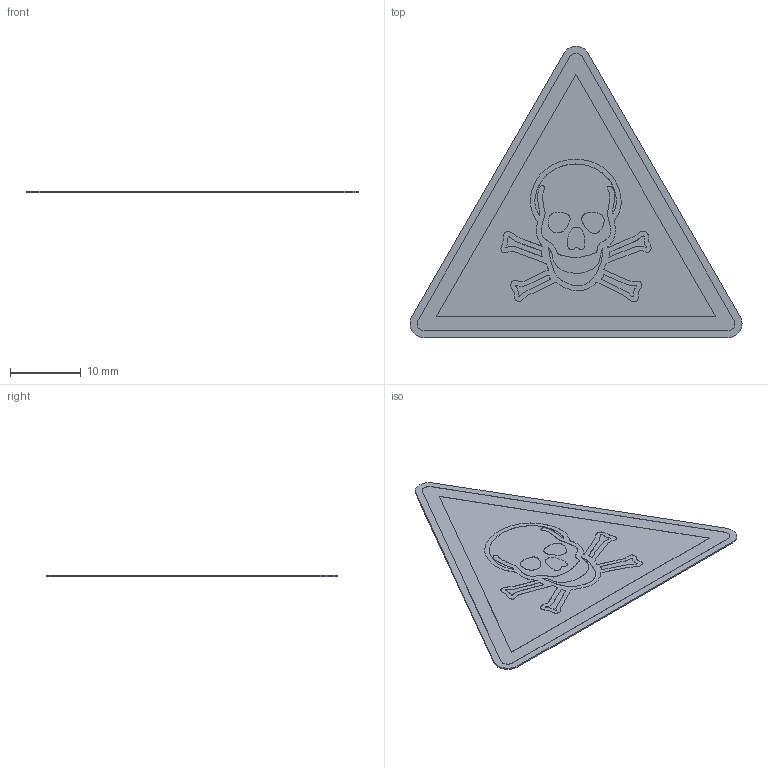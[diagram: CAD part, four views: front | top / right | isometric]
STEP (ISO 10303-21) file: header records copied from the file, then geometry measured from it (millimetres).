
FILE_DESCRIPTION (( 'STEP AP214' ), '1' );
FILE_NAME ('W016_Warnung vor giftigen Stoffen.STEP', '2022-02-22T08:16:44', ( '' ), ( '' ), 'SwSTEP 2.0', 'SolidWorks 2021', '' );
FILE_SCHEMA (( 'AUTOMOTIVE_DESIGN' ));
Length unit declared in the file: millimetre
Products named in the file (1): W016_Warnung vor giftigen Stoffen
Bounding box: 47.07 x 41.3 x 0.22 mm (x, y, z)
Volume: 221.1 mm3; surface area: 2192.9 mm2
Topology: 1 solids, 1 shells, 53 faces, 117 edges, 78 vertices
Faces by surface type: plane 23, bspline 22, cylinder 8
Entity records: 3670 total; most frequent: CARTESIAN_POINT 2185, ORIENTED_EDGE 234, DIRECTION 153, EDGE_CURVE 117, VERTEX_POINT 78, EDGE_LOOP 65, LINE 57, VECTOR 57
